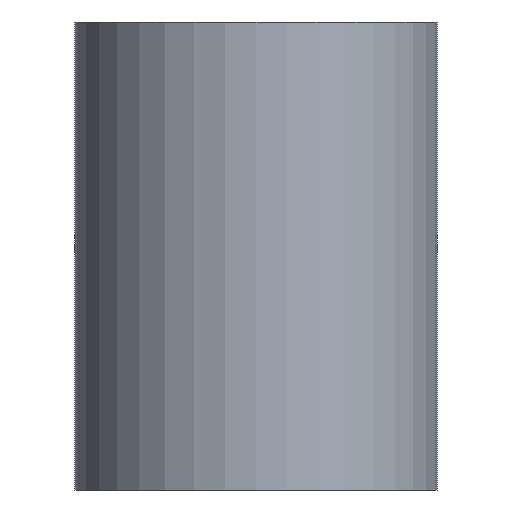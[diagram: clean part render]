
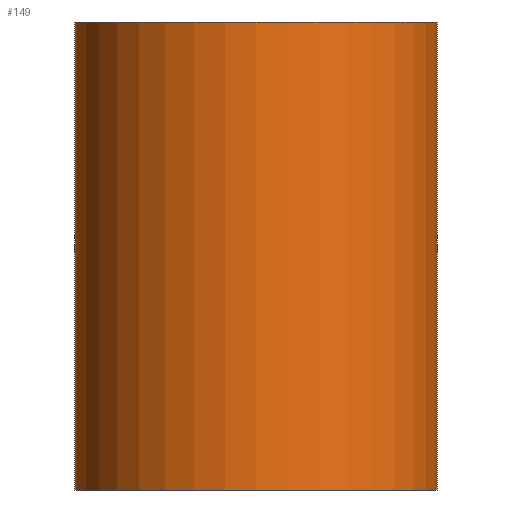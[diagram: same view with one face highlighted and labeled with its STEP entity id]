
A CAD part, front view. The second image highlights one B-rep face of the part: STEP entity #149.
In plain terms, the highlighted cylindrical face has radius 31 mm (diameter 62 mm), a full revolution.
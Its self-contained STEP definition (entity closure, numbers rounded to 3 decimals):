
#28=LINE('',#337,#32);
#32=VECTOR('',#293,31.);
#36=CYLINDRICAL_SURFACE('',#240,31.);
#47=FACE_OUTER_BOUND('',#58,.T.);
#58=EDGE_LOOP('',(#124,#125,#126,#127,#128,#129));
#67=CIRCLE('',#235,31.);
#68=CIRCLE('',#236,31.);
#71=CIRCLE('',#241,31.);
#72=CIRCLE('',#242,31.);
#79=VERTEX_POINT('',#322);
#80=VERTEX_POINT('',#323);
#83=VERTEX_POINT('',#333);
#84=VERTEX_POINT('',#334);
#93=EDGE_CURVE('',#79,#80,#67,.T.);
#94=EDGE_CURVE('',#80,#79,#68,.T.);
#98=EDGE_CURVE('',#83,#84,#71,.T.);
#99=EDGE_CURVE('',#84,#83,#72,.T.);
#100=EDGE_CURVE('',#84,#80,#28,.T.);
#124=ORIENTED_EDGE('',*,*,#98,.F.);
#125=ORIENTED_EDGE('',*,*,#99,.F.);
#126=ORIENTED_EDGE('',*,*,#100,.T.);
#127=ORIENTED_EDGE('',*,*,#93,.F.);
#128=ORIENTED_EDGE('',*,*,#94,.F.);
#129=ORIENTED_EDGE('',*,*,#100,.F.);
#149=ADVANCED_FACE('',(#47),#36,.T.);
#235=AXIS2_PLACEMENT_3D('',#324,#276,#277);
#236=AXIS2_PLACEMENT_3D('',#325,#278,#279);
#240=AXIS2_PLACEMENT_3D('',#332,#287,#288);
#241=AXIS2_PLACEMENT_3D('',#335,#289,#290);
#242=AXIS2_PLACEMENT_3D('',#336,#291,#292);
#276=DIRECTION('center_axis',(0.,0.,-1.));
#277=DIRECTION('ref_axis',(1.,0.,0.));
#278=DIRECTION('center_axis',(0.,0.,-1.));
#279=DIRECTION('ref_axis',(1.,0.,0.));
#287=DIRECTION('center_axis',(0.,0.,1.));
#288=DIRECTION('ref_axis',(1.,0.,0.));
#289=DIRECTION('center_axis',(0.,0.,1.));
#290=DIRECTION('ref_axis',(1.,0.,0.));
#291=DIRECTION('center_axis',(0.,0.,1.));
#292=DIRECTION('ref_axis',(1.,0.,0.));
#293=DIRECTION('',(0.,0.,-1.));
#322=CARTESIAN_POINT('',(31.,0.,-40.));
#323=CARTESIAN_POINT('',(-31.,0.,-40.));
#324=CARTESIAN_POINT('Origin',(0.,0.,-40.));
#325=CARTESIAN_POINT('Origin',(0.,0.,-40.));
#332=CARTESIAN_POINT('Origin',(0.,0.,0.));
#333=CARTESIAN_POINT('',(31.,0.,40.));
#334=CARTESIAN_POINT('',(-31.,0.,40.));
#335=CARTESIAN_POINT('Origin',(0.,0.,40.));
#336=CARTESIAN_POINT('Origin',(0.,0.,40.));
#337=CARTESIAN_POINT('',(-31.,0.,0.));
